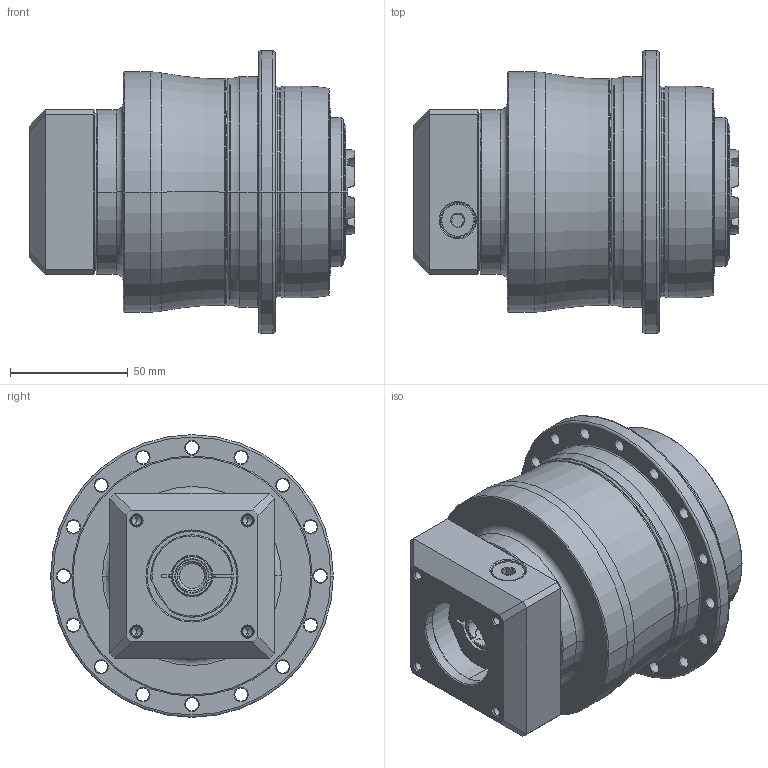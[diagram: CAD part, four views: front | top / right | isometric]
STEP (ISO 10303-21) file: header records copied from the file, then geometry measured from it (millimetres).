
FILE_DESCRIPTION((''),'2;1');
FILE_NAME('APC090_2ST_14-P0409300201_ASM','2018-10-23T',('d01226'),(''),'PRO/ENGINEER BY PARAMETRIC TECHNOLOGY CORPORATION, 2015240','PRO/ENGINEER BY PARAMETRIC TECHNOLOGY CORPORATION, 2015240','');
FILE_SCHEMA(('CONFIG_CONTROL_DESIGN'));
Length unit declared in the file: millimetre
Products named in the file (9): P0278301003; P0359330103; P1317310201; P0503300005; P0912202001; P1211300001; P0409300201; 21711410012; APC090_2ST_14-P0409300201_ASM
Assembly tree (8 placements, depth 2):
  APC090_2ST_14-P0409300201_ASM
    P0278301003
    P0359330103
    P1317310201
    P0503300005
    P0912202001
    P1211300001
    P0409300201
    21711410012
Bounding box: 138.4 x 120 x 120 mm (x, y, z)
Volume: 788200.4 mm3; surface area: 130338.1 mm2
Topology: 9 solids, 19 shells, 579 faces, 1377 edges, 839 vertices
Faces by surface type: cylinder 206, cone 174, plane 119, torus 66, bspline 14
Entity records: 21471 total; most frequent: CARTESIAN_POINT 7597, DIRECTION 3125, ORIENTED_EDGE 2684, EDGE_CURVE 1363, AXIS2_PLACEMENT_3D 1329, VERTEX_POINT 839, CIRCLE 737, EDGE_LOOP 666
